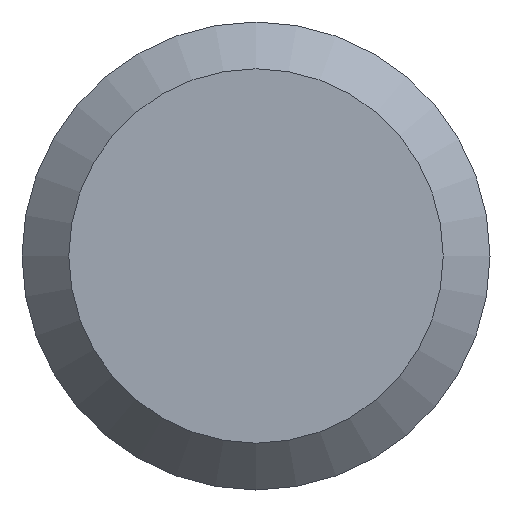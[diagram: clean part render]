
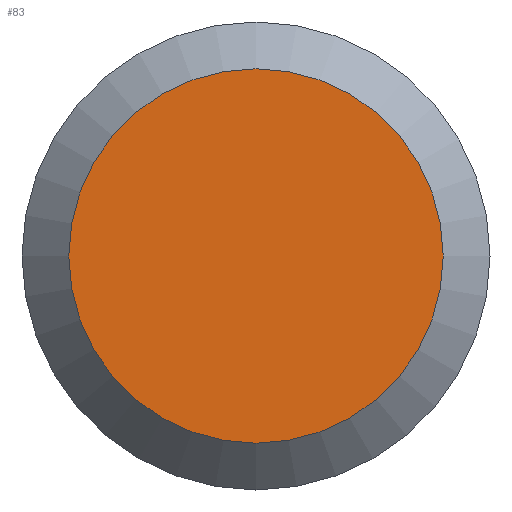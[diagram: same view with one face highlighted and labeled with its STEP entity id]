
A CAD part, left-side view. The second image highlights one B-rep face of the part: STEP entity #83.
In plain terms, the highlighted planar face has unit normal (-1, 0, 0).
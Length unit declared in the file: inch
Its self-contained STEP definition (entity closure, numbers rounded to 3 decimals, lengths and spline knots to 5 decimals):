
#2 = EDGE_LOOP ( 'NONE', ( #183 ) ) ;
#3 = FACE_OUTER_BOUND ( 'NONE', #2, .T. ) ;
#9 = EDGE_CURVE ( 'NONE', #133, #133, #43, .T. ) ;
#24 = CARTESIAN_POINT ( 'NONE',  ( 0., 0., 0. ) ) ;
#28 = AXIS2_PLACEMENT_3D ( 'NONE', #238, #135, #140 ) ;
#43 = CIRCLE ( 'NONE', #88, 0.1625 ) ;
#80 = PLANE ( 'NONE',  #28 ) ;
#83 = ADVANCED_FACE ( 'NONE', ( #3 ), #80, .F. ) ;
#88 = AXIS2_PLACEMENT_3D ( 'NONE', #24, #226, #237 ) ;
#133 = VERTEX_POINT ( 'NONE', #221 ) ;
#135 = DIRECTION ( 'NONE',  ( 1., 0., 0. ) ) ;
#140 = DIRECTION ( 'NONE',  ( 0., 0., -1. ) ) ;
#183 = ORIENTED_EDGE ( 'NONE', *, *, #9, .T. ) ;
#221 = CARTESIAN_POINT ( 'NONE',  ( 0., 0., -0.1625 ) ) ;
#226 = DIRECTION ( 'NONE',  ( -1., 0., 0. ) ) ;
#237 = DIRECTION ( 'NONE',  ( 0., 0., -1. ) ) ;
#238 = CARTESIAN_POINT ( 'NONE',  ( 0., 0.20313, 0. ) ) ;
